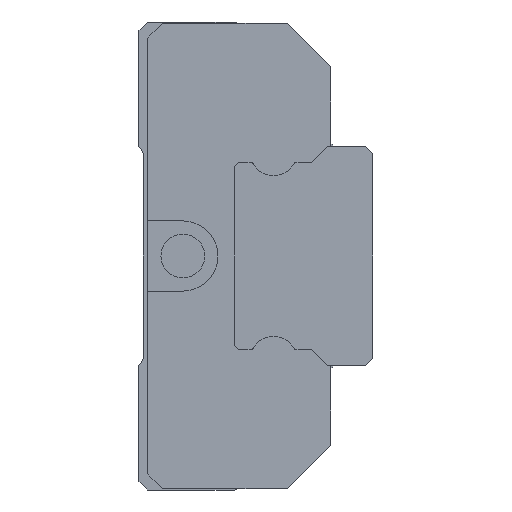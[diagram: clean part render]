
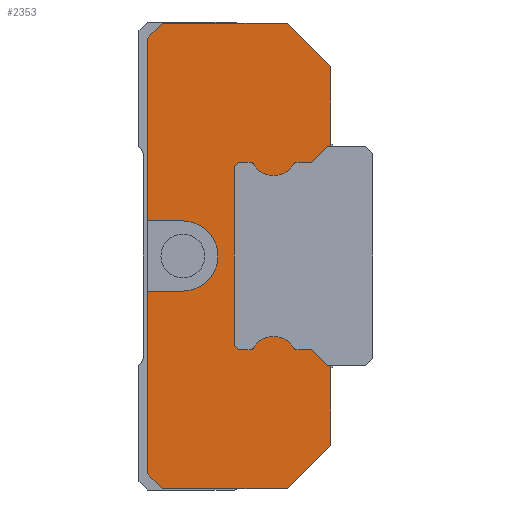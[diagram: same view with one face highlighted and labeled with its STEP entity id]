
A CAD part, left-side view. The second image highlights one B-rep face of the part: STEP entity #2353.
In plain terms, the highlighted planar face has unit normal (-1, 0, 0).
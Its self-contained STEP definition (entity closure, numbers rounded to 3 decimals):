
#88=CIRCLE('',#2535,2.4);
#89=CIRCLE('',#2536,0.15);
#90=CIRCLE('',#2537,1.6);
#91=CIRCLE('',#2538,0.15);
#92=CIRCLE('',#2539,0.15);
#93=CIRCLE('',#2540,1.6);
#94=CIRCLE('',#2541,0.15);
#268=ORIENTED_EDGE('',*,*,#864,.T.);
#269=ORIENTED_EDGE('',*,*,#865,.T.);
#270=ORIENTED_EDGE('',*,*,#866,.T.);
#271=ORIENTED_EDGE('',*,*,#862,.F.);
#272=ORIENTED_EDGE('',*,*,#867,.F.);
#273=ORIENTED_EDGE('',*,*,#868,.F.);
#274=ORIENTED_EDGE('',*,*,#869,.F.);
#275=ORIENTED_EDGE('',*,*,#870,.F.);
#276=ORIENTED_EDGE('',*,*,#871,.T.);
#277=ORIENTED_EDGE('',*,*,#872,.T.);
#278=ORIENTED_EDGE('',*,*,#873,.T.);
#279=ORIENTED_EDGE('',*,*,#874,.T.);
#280=ORIENTED_EDGE('',*,*,#875,.F.);
#281=ORIENTED_EDGE('',*,*,#876,.T.);
#282=ORIENTED_EDGE('',*,*,#877,.T.);
#283=ORIENTED_EDGE('',*,*,#878,.T.);
#284=ORIENTED_EDGE('',*,*,#879,.T.);
#285=ORIENTED_EDGE('',*,*,#880,.T.);
#286=ORIENTED_EDGE('',*,*,#881,.T.);
#287=ORIENTED_EDGE('',*,*,#882,.T.);
#288=ORIENTED_EDGE('',*,*,#883,.F.);
#289=ORIENTED_EDGE('',*,*,#884,.T.);
#290=ORIENTED_EDGE('',*,*,#885,.T.);
#291=ORIENTED_EDGE('',*,*,#886,.T.);
#292=ORIENTED_EDGE('',*,*,#887,.T.);
#293=ORIENTED_EDGE('',*,*,#888,.F.);
#294=ORIENTED_EDGE('',*,*,#889,.F.);
#295=ORIENTED_EDGE('',*,*,#890,.F.);
#296=ORIENTED_EDGE('',*,*,#891,.F.);
#297=ORIENTED_EDGE('',*,*,#858,.F.);
#858=EDGE_CURVE('',#1170,#1171,#1398,.T.);
#862=EDGE_CURVE('',#1174,#1175,#1402,.T.);
#864=EDGE_CURVE('',#1170,#1176,#1404,.T.);
#865=EDGE_CURVE('',#1176,#1177,#88,.T.);
#866=EDGE_CURVE('',#1177,#1175,#1405,.T.);
#867=EDGE_CURVE('',#1178,#1174,#1406,.T.);
#868=EDGE_CURVE('',#1179,#1178,#1407,.T.);
#869=EDGE_CURVE('',#1180,#1179,#1408,.T.);
#870=EDGE_CURVE('',#1181,#1180,#1409,.T.);
#871=EDGE_CURVE('',#1181,#1182,#1410,.T.);
#872=EDGE_CURVE('',#1182,#1183,#1411,.T.);
#873=EDGE_CURVE('',#1183,#1184,#1412,.T.);
#874=EDGE_CURVE('',#1184,#1185,#89,.T.);
#875=EDGE_CURVE('',#1186,#1185,#90,.T.);
#876=EDGE_CURVE('',#1186,#1187,#91,.T.);
#877=EDGE_CURVE('',#1187,#1188,#1413,.T.);
#878=EDGE_CURVE('',#1188,#1189,#1414,.T.);
#879=EDGE_CURVE('',#1189,#1190,#1415,.T.);
#880=EDGE_CURVE('',#1190,#1191,#1416,.T.);
#881=EDGE_CURVE('',#1191,#1192,#1417,.T.);
#882=EDGE_CURVE('',#1192,#1193,#92,.T.);
#883=EDGE_CURVE('',#1194,#1193,#93,.T.);
#884=EDGE_CURVE('',#1194,#1195,#94,.T.);
#885=EDGE_CURVE('',#1195,#1196,#1418,.T.);
#886=EDGE_CURVE('',#1196,#1197,#1419,.T.);
#887=EDGE_CURVE('',#1197,#1198,#1420,.T.);
#888=EDGE_CURVE('',#1199,#1198,#1421,.T.);
#889=EDGE_CURVE('',#1200,#1199,#1422,.T.);
#890=EDGE_CURVE('',#1201,#1200,#1423,.T.);
#891=EDGE_CURVE('',#1171,#1201,#1424,.T.);
#1170=VERTEX_POINT('',#3489);
#1171=VERTEX_POINT('',#3491);
#1174=VERTEX_POINT('',#3497);
#1175=VERTEX_POINT('',#3499);
#1176=VERTEX_POINT('',#3503);
#1177=VERTEX_POINT('',#3505);
#1178=VERTEX_POINT('',#3508);
#1179=VERTEX_POINT('',#3510);
#1180=VERTEX_POINT('',#3512);
#1181=VERTEX_POINT('',#3514);
#1182=VERTEX_POINT('',#3516);
#1183=VERTEX_POINT('',#3518);
#1184=VERTEX_POINT('',#3520);
#1185=VERTEX_POINT('',#3522);
#1186=VERTEX_POINT('',#3524);
#1187=VERTEX_POINT('',#3526);
#1188=VERTEX_POINT('',#3528);
#1189=VERTEX_POINT('',#3530);
#1190=VERTEX_POINT('',#3532);
#1191=VERTEX_POINT('',#3534);
#1192=VERTEX_POINT('',#3536);
#1193=VERTEX_POINT('',#3538);
#1194=VERTEX_POINT('',#3540);
#1195=VERTEX_POINT('',#3542);
#1196=VERTEX_POINT('',#3544);
#1197=VERTEX_POINT('',#3546);
#1198=VERTEX_POINT('',#3548);
#1199=VERTEX_POINT('',#3550);
#1200=VERTEX_POINT('',#3552);
#1201=VERTEX_POINT('',#3554);
#1398=LINE('',#3490,#1674);
#1402=LINE('',#3498,#1678);
#1404=LINE('',#3502,#1680);
#1405=LINE('',#3506,#1681);
#1406=LINE('',#3507,#1682);
#1407=LINE('',#3509,#1683);
#1408=LINE('',#3511,#1684);
#1409=LINE('',#3513,#1685);
#1410=LINE('',#3515,#1686);
#1411=LINE('',#3517,#1687);
#1412=LINE('',#3519,#1688);
#1413=LINE('',#3527,#1689);
#1414=LINE('',#3529,#1690);
#1415=LINE('',#3531,#1691);
#1416=LINE('',#3533,#1692);
#1417=LINE('',#3535,#1693);
#1418=LINE('',#3543,#1694);
#1419=LINE('',#3545,#1695);
#1420=LINE('',#3547,#1696);
#1421=LINE('',#3549,#1697);
#1422=LINE('',#3551,#1698);
#1423=LINE('',#3553,#1699);
#1424=LINE('',#3555,#1700);
#1674=VECTOR('',#2828,1000.);
#1678=VECTOR('',#2832,1000.);
#1680=VECTOR('',#2836,1000.);
#1681=VECTOR('',#2839,1000.);
#1682=VECTOR('',#2840,1000.);
#1683=VECTOR('',#2841,1000.);
#1684=VECTOR('',#2842,1000.);
#1685=VECTOR('',#2843,1000.);
#1686=VECTOR('',#2844,1000.);
#1687=VECTOR('',#2845,1000.);
#1688=VECTOR('',#2846,1000.);
#1689=VECTOR('',#2853,1000.);
#1690=VECTOR('',#2854,1000.);
#1691=VECTOR('',#2855,1000.);
#1692=VECTOR('',#2856,1000.);
#1693=VECTOR('',#2857,1000.);
#1694=VECTOR('',#2864,1000.);
#1695=VECTOR('',#2865,1000.);
#1696=VECTOR('',#2866,1000.);
#1697=VECTOR('',#2867,1000.);
#1698=VECTOR('',#2868,1000.);
#1699=VECTOR('',#2869,1000.);
#1700=VECTOR('',#2870,1000.);
#1939=EDGE_LOOP('',(#268,#269,#270,#271,#272,#273,#274,#275,#276,#277,#278,
#279,#280,#281,#282,#283,#284,#285,#286,#287,#288,#289,#290,#291,#292,#293,
#294,#295,#296,#297));
#2099=FACE_BOUND('',#1939,.T.);
#2243=PLANE('',#2534);
#2353=ADVANCED_FACE('',(#2099),#2243,.F.);
#2534=AXIS2_PLACEMENT_3D('',#3501,#2834,#2835);
#2535=AXIS2_PLACEMENT_3D('',#3504,#2837,#2838);
#2536=AXIS2_PLACEMENT_3D('',#3521,#2847,#2848);
#2537=AXIS2_PLACEMENT_3D('',#3523,#2849,#2850);
#2538=AXIS2_PLACEMENT_3D('',#3525,#2851,#2852);
#2539=AXIS2_PLACEMENT_3D('',#3537,#2858,#2859);
#2540=AXIS2_PLACEMENT_3D('',#3539,#2860,#2861);
#2541=AXIS2_PLACEMENT_3D('',#3541,#2862,#2863);
#2828=DIRECTION('',(0.,0.,1.));
#2832=DIRECTION('',(0.,0.,1.));
#2834=DIRECTION('',(1.,0.,0.));
#2835=DIRECTION('',(0.,0.,-1.));
#2836=DIRECTION('',(0.,-1.,0.));
#2837=DIRECTION('',(1.,0.,0.));
#2838=DIRECTION('',(0.,0.,-1.));
#2839=DIRECTION('',(0.,1.,0.));
#2840=DIRECTION('',(0.,0.707,0.707));
#2841=DIRECTION('',(0.,1.,0.));
#2842=DIRECTION('',(0.,0.707,-0.707));
#2843=DIRECTION('',(0.,0.,-1.));
#2844=DIRECTION('',(0.,1.,0.));
#2845=DIRECTION('',(0.,0.707,0.707));
#2846=DIRECTION('',(0.,1.,0.));
#2847=DIRECTION('',(1.,0.,0.));
#2848=DIRECTION('',(0.,0.,-1.));
#2849=DIRECTION('',(1.,0.,0.));
#2850=DIRECTION('',(0.,0.,-1.));
#2851=DIRECTION('',(1.,0.,0.));
#2852=DIRECTION('',(0.,0.,-1.));
#2853=DIRECTION('',(0.,1.,0.));
#2854=DIRECTION('',(0.,0.707,0.707));
#2855=DIRECTION('',(0.,0.,1.));
#2856=DIRECTION('',(0.,-0.707,0.707));
#2857=DIRECTION('',(0.,-1.,0.));
#2858=DIRECTION('',(1.,0.,0.));
#2859=DIRECTION('',(0.,0.,-1.));
#2860=DIRECTION('',(1.,0.,0.));
#2861=DIRECTION('',(0.,0.,-1.));
#2862=DIRECTION('',(1.,0.,0.));
#2863=DIRECTION('',(0.,0.,-1.));
#2864=DIRECTION('',(0.,-1.,0.));
#2865=DIRECTION('',(0.,-0.707,0.707));
#2866=DIRECTION('',(0.,-1.,0.));
#2867=DIRECTION('',(0.,0.,-1.));
#2868=DIRECTION('',(0.,-0.707,-0.707));
#2869=DIRECTION('',(0.,-1.,0.));
#2870=DIRECTION('',(0.,-0.707,0.707));
#3489=CARTESIAN_POINT('',(-21.5,12.7,2.4));
#3490=CARTESIAN_POINT('',(-21.5,12.7,-14.9));
#3491=CARTESIAN_POINT('',(-21.5,12.7,14.9));
#3497=CARTESIAN_POINT('',(-21.5,12.7,-14.9));
#3498=CARTESIAN_POINT('',(-21.5,12.7,-14.9));
#3499=CARTESIAN_POINT('',(-21.5,12.7,-2.4));
#3501=CARTESIAN_POINT('',(-21.5,0.,0.));
#3502=CARTESIAN_POINT('',(-21.5,13.3,2.4));
#3503=CARTESIAN_POINT('',(-21.5,10.3,2.4));
#3504=CARTESIAN_POINT('',(-21.5,10.3,0.));
#3505=CARTESIAN_POINT('',(-21.5,10.3,-2.4));
#3506=CARTESIAN_POINT('',(-21.5,10.3,-2.4));
#3507=CARTESIAN_POINT('',(-21.5,11.7,-15.9));
#3508=CARTESIAN_POINT('',(-21.5,11.7,-15.9));
#3509=CARTESIAN_POINT('',(-21.5,3.16,-15.9));
#3510=CARTESIAN_POINT('',(-21.5,3.16,-15.9));
#3511=CARTESIAN_POINT('',(-21.5,0.2,-12.94));
#3512=CARTESIAN_POINT('',(-21.5,0.2,-12.94));
#3513=CARTESIAN_POINT('',(-21.5,0.2,12.94));
#3514=CARTESIAN_POINT('',(-21.5,0.2,-7.5));
#3515=CARTESIAN_POINT('',(-21.5,-2.2,-7.5));
#3516=CARTESIAN_POINT('',(-21.5,0.4,-7.5));
#3517=CARTESIAN_POINT('',(-21.5,0.4,-7.5));
#3518=CARTESIAN_POINT('',(-21.5,1.5,-6.4));
#3519=CARTESIAN_POINT('',(-21.5,1.5,-6.4));
#3520=CARTESIAN_POINT('',(-21.5,2.57,-6.4));
#3521=CARTESIAN_POINT('',(-21.5,2.57,-6.25));
#3522=CARTESIAN_POINT('',(-21.5,2.701,-6.323));
#3523=CARTESIAN_POINT('',(-21.5,4.1,-7.1));
#3524=CARTESIAN_POINT('',(-21.5,5.499,-6.323));
#3525=CARTESIAN_POINT('',(-21.5,5.63,-6.25));
#3526=CARTESIAN_POINT('',(-21.5,5.63,-6.4));
#3527=CARTESIAN_POINT('',(-21.5,5.63,-6.4));
#3528=CARTESIAN_POINT('',(-21.5,6.5,-6.4));
#3529=CARTESIAN_POINT('',(-21.5,6.5,-6.4));
#3530=CARTESIAN_POINT('',(-21.5,6.8,-6.1));
#3531=CARTESIAN_POINT('',(-21.5,6.8,-6.1));
#3532=CARTESIAN_POINT('',(-21.5,6.8,6.1));
#3533=CARTESIAN_POINT('',(-21.5,6.8,6.1));
#3534=CARTESIAN_POINT('',(-21.5,6.5,6.4));
#3535=CARTESIAN_POINT('',(-21.5,6.5,6.4));
#3536=CARTESIAN_POINT('',(-21.5,5.63,6.4));
#3537=CARTESIAN_POINT('',(-21.5,5.63,6.25));
#3538=CARTESIAN_POINT('',(-21.5,5.499,6.323));
#3539=CARTESIAN_POINT('',(-21.5,4.1,7.1));
#3540=CARTESIAN_POINT('',(-21.5,2.701,6.323));
#3541=CARTESIAN_POINT('',(-21.5,2.57,6.25));
#3542=CARTESIAN_POINT('',(-21.5,2.57,6.4));
#3543=CARTESIAN_POINT('',(-21.5,2.57,6.4));
#3544=CARTESIAN_POINT('',(-21.5,1.5,6.4));
#3545=CARTESIAN_POINT('',(-21.5,1.5,6.4));
#3546=CARTESIAN_POINT('',(-21.5,0.4,7.5));
#3547=CARTESIAN_POINT('',(-21.5,0.4,7.5));
#3548=CARTESIAN_POINT('',(-21.5,0.2,7.5));
#3549=CARTESIAN_POINT('',(-21.5,0.2,12.94));
#3550=CARTESIAN_POINT('',(-21.5,0.2,12.94));
#3551=CARTESIAN_POINT('',(-21.5,3.16,15.9));
#3552=CARTESIAN_POINT('',(-21.5,3.16,15.9));
#3553=CARTESIAN_POINT('',(-21.5,11.7,15.9));
#3554=CARTESIAN_POINT('',(-21.5,11.7,15.9));
#3555=CARTESIAN_POINT('',(-21.5,12.7,14.9));
